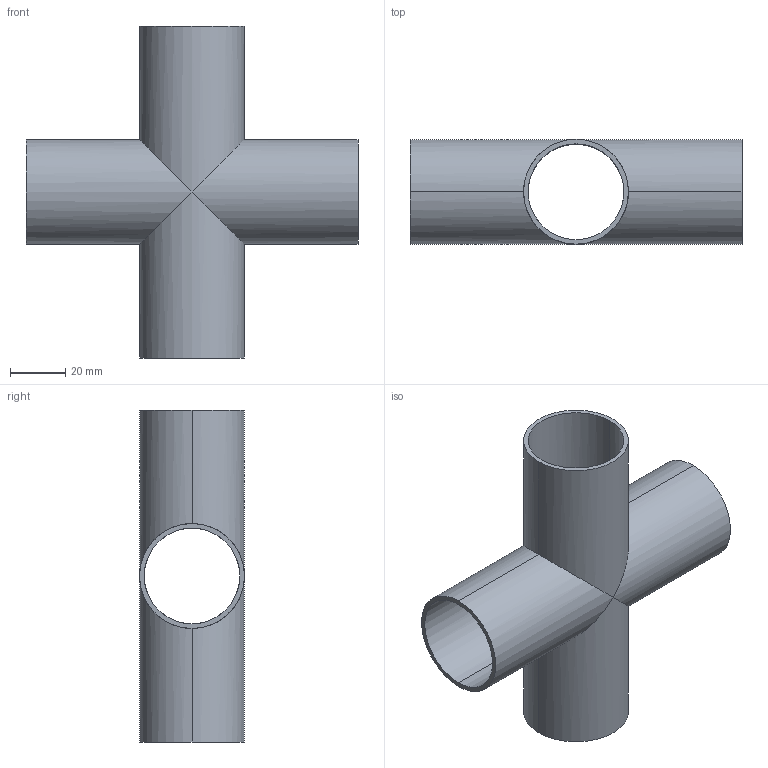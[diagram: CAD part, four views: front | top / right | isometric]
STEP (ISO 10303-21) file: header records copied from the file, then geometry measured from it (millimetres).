
FILE_DESCRIPTION (( 'STEP AP214' ), '1' );
FILE_NAME ('TE9WWWW6L1.5-...STEP', '2016-05-22T04:55:58', ( 'eran' ), ( '' ), 'SwSTEP 2.0', 'SolidWorks 2016', '' );
FILE_SCHEMA (( 'AUTOMOTIVE_DESIGN' ));
Length unit declared in the file: millimetre
Products named in the file (1): TE9WWWW6L1.5-..
Bounding box: 120.65 x 38.1 x 120.65 mm (x, y, z)
Volume: 36838.8 mm3; surface area: 45367.7 mm2
Topology: 1 solids, 1 shells, 20 faces, 48 edges, 28 vertices
Faces by surface type: cylinder 16, plane 4
Entity records: 618 total; most frequent: CARTESIAN_POINT 145, ORIENTED_EDGE 96, DIRECTION 90, EDGE_CURVE 48, AXIS2_PLACEMENT_3D 37, VERTEX_POINT 28, EDGE_LOOP 24, FACE_OUTER_BOUND 20
